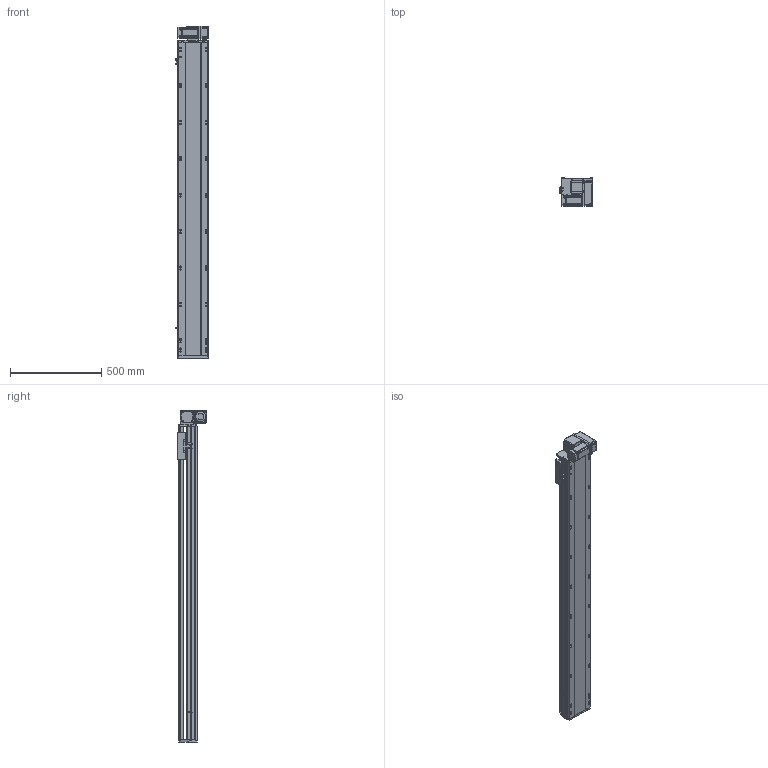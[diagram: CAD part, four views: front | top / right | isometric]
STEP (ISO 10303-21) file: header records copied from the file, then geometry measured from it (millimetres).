
FILE_DESCRIPTION (( 'STEP AP214' ), '1' );
FILE_NAME ('RTB17S-XX-1450-RM-M40-C4.STEP', '2025-12-11T08:19:31', ( '' ), ( '' ), 'SwSTEP 2.0', 'SolidWorks 2018', '' );
FILE_SCHEMA (( 'AUTOMOTIVE_DESIGN' ));
Length unit declared in the file: millimetre
Products named in the file (14): OMRON EE-SX672 传感器^RTB17S-XX-XX-RM-M40-C4; RTB17S-L-007奻裔^RTB17S-XX-XX-RM-M40-C4; RTH13-BL-012覜茼え俋离^RTB17S-XX-XX-RM-M40-C4; RTB17S-L-004佪裝蹟譫蟀諉釱^RTB17S-XX-XX-RM-M40-C4; RTB17-R-011菁釱^RTB17S-XX-XX-RM-M40-C4; RTB14-L-017P^RTB17S-RM-々湍釱蚾饜-400W_RTB17S-XX-XX-RM-M40-C4; RTB14-L-018P^RTB17S-RM-々湍釱蚾饜-400W_RTB17S-XX-XX-RM-M40-C4; RTB14-L-008-M20--萇儂啣^RTB17S-RM-々湍釱蚾饜-400W_RTB17S-XX-XX-RM-M40-C4; 400W侜督萇儂^RTB17S-XX-XX-RM-M40-C4; RTB17S-L-001耜醱啣^RTB17S-XX-XX-RM-M40-C4; RTB17S-XX-1450-RM-M40-C4; RTB17S-RM-々湍釱蚾饜-400W^RTB17S-XX-XX-RM-M40-C4; RTB14-L-005P--轴承塑胶压盖^RTB17S-RM-皮带座装配-400W_RTB17S-XX-XX-RM-M40-C4; RTB17S-L-014-T20--々湍釱^RTB17S-RM-々湍釱蚾饜-400W_RTB17S-XX-XX-RM-M40-C4
Assembly tree (16 placements, depth 3):
  RTB17S-XX-1450-RM-M40-C4
    RTB17-R-011菁釱^RTB17S-XX-XX-RM-M40-C4
    RTB17S-L-007奻裔^RTB17S-XX-XX-RM-M40-C4
    OMRON EE-SX672 传感器^RTB17S-XX-XX-RM-M40-C4  x3
    RTB17S-L-001耜醱啣^RTB17S-XX-XX-RM-M40-C4
    400W侜督萇儂^RTB17S-XX-XX-RM-M40-C4
    RTB17S-L-004佪裝蹟譫蟀諉釱^RTB17S-XX-XX-RM-M40-C4
    RTH13-BL-012覜茼え俋离^RTB17S-XX-XX-RM-M40-C4
    RTB17S-RM-々湍釱蚾饜-400W^RTB17S-XX-XX-RM-M40-C4
      RTB17S-L-014-T20--々湍釱^RTB17S-RM-々湍釱蚾饜-400W_RTB17S-XX-XX-RM-M40-C4
      RTB14-L-005P--轴承塑胶压盖^RTB17S-RM-皮带座装配-400W_RTB17S-XX-XX-RM-M40-C4
      RTB14-L-008-M20--萇儂啣^RTB17S-RM-々湍釱蚾饜-400W_RTB17S-XX-XX-RM-M40-C4
      RTB14-L-017P^RTB17S-RM-々湍釱蚾饜-400W_RTB17S-XX-XX-RM-M40-C4  x2
      RTB14-L-018P^RTB17S-RM-々湍釱蚾饜-400W_RTB17S-XX-XX-RM-M40-C4
Bounding box: 183.5 x 156.5 x 1822.5 mm (x, y, z)
Volume: 16038831.2 mm3; surface area: 1900044.6 mm2
Topology: 15 solids, 15 shells, 2253 faces, 6249 edges, 4077 vertices
Faces by surface type: plane 1074, cylinder 731, bspline 301, cone 139, torus 8
Entity records: 64937 total; most frequent: CARTESIAN_POINT 18254, ORIENTED_EDGE 9342, DIRECTION 8666, EDGE_CURVE 4671, VERTEX_POINT 3065, AXIS2_PLACEMENT_3D 2995, LINE 2676, VECTOR 2676
